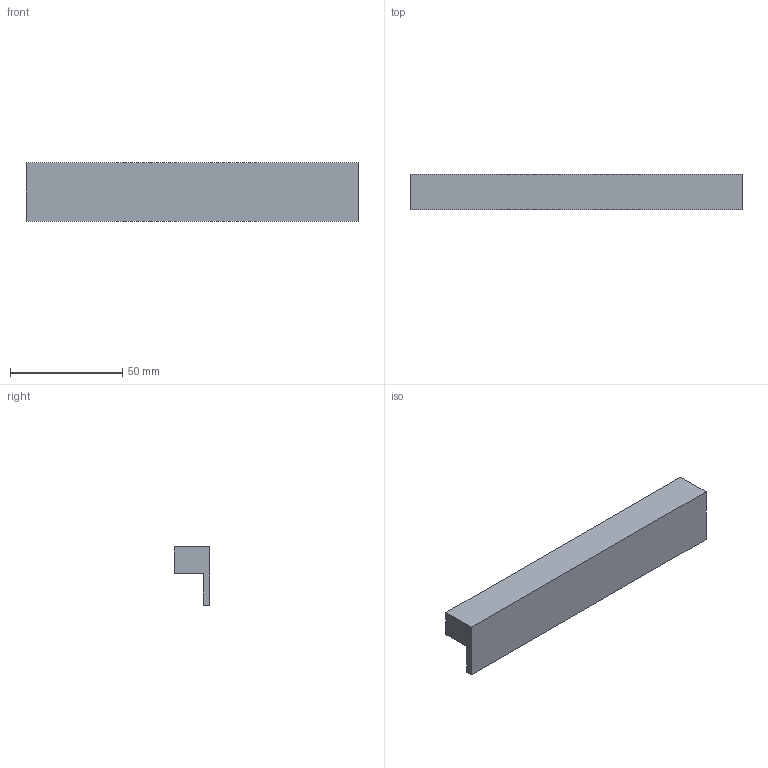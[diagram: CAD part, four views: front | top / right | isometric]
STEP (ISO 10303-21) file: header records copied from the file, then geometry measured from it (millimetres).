
FILE_DESCRIPTION( ( 'STEP AP214' ), '1' );
FILE_NAME( 'D:/Shahbaz D&D/Task/Check and correct handles with 3 drill sockets/Trani/9995440.stp', '2023-02-20T11:26:15', ( '' ), ( '' ), ' ', 'PARTsolutions', ' ' );
FILE_SCHEMA( ( 'AUTOMOTIVE_DESIGN { 1 0 10303 214 1 1 1 1 }' ) );
Length unit declared in the file: millimetre
Products named in the file (1): _9995440
Bounding box: 148 x 16 x 26 mm (x, y, z)
Volume: 34317.8 mm3; surface area: 13151.3 mm2
Topology: 1 solids, 1 shells, 12 faces, 24 edges, 16 vertices
Faces by surface type: plane 10, cylinder 2
Full cylindrical faces by diameter (mm): 5 x2
Entity records: 414 total; most frequent: DIRECTION 52, CARTESIAN_POINT 51, ORIENTED_EDGE 44, EDGE_CURVE 22, LINE 18, VECTOR 18, AXIS2_PLACEMENT_3D 17, EDGE_LOOP 16
